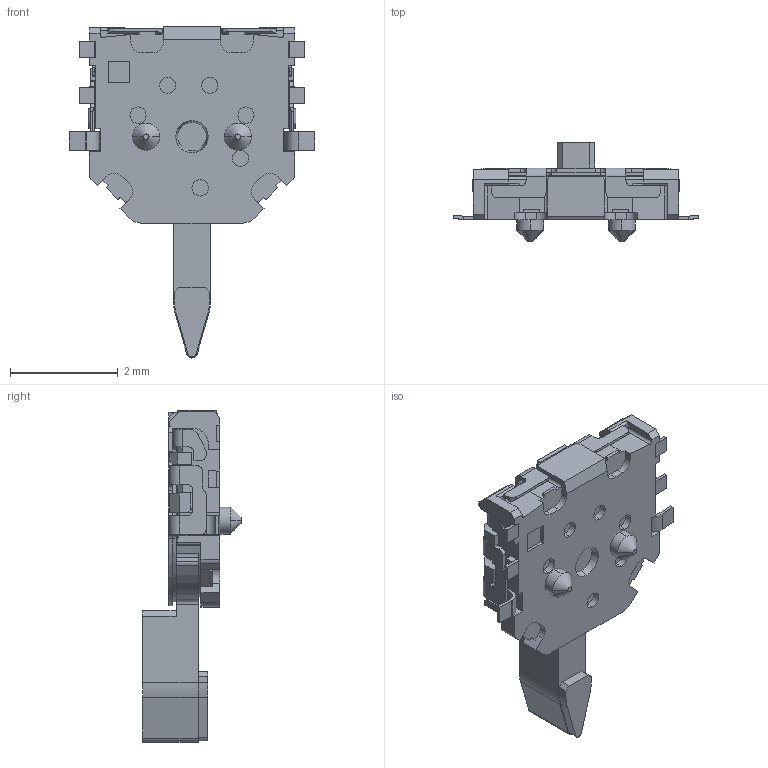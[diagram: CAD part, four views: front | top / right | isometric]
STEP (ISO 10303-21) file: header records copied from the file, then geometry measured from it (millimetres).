
FILE_DESCRIPTION (( 'STEP AP214' ), '1' );
FILE_NAME ('SSCQ110100(色付き).STEP', '2013-04-08T11:08:49', ( ' ' ), ( '' ), 'SwSTEP 2.0', 'SolidWorks 2012', '' );
FILE_SCHEMA (( 'AUTOMOTIVE_DESIGN' ));
Length unit declared in the file: millimetre
Products named in the file (1): SSCQ110100(色付き)
Bounding box: 4.55 x 1.83 x 6.15 mm (x, y, z)
Volume: 12.1 mm3; surface area: 68.7 mm2
Topology: 1 solids, 3 shells, 488 faces, 1403 edges, 920 vertices
Faces by surface type: plane 316, cylinder 161, cone 9, bspline 2
Entity records: 19119 total; most frequent: CARTESIAN_POINT 2929, ORIENTED_EDGE 2806, DIRECTION 2692, EDGE_CURVE 1403, VECTOR 1030, LINE 1030, VERTEX_POINT 920, AXIS2_PLACEMENT_3D 831
